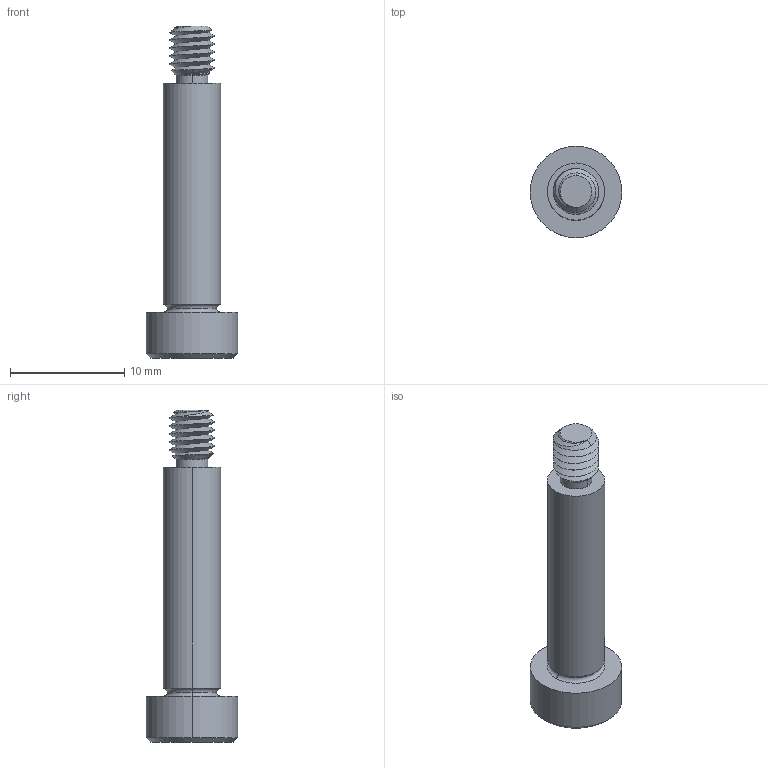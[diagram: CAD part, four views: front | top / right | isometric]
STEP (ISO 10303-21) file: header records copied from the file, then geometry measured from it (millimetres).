
FILE_DESCRIPTION (( 'STEP AP203' ), '1' );
FILE_NAME ('P0130.050-020-B2.step', '2021-11-09T21:15:55', ( '' ), ( '' ), 'SwSTEP 2.0', 'SolidWorks 2019', '' );
FILE_SCHEMA (( 'CONFIG_CONTROL_DESIGN' ));
Length unit declared in the file: millimetre
Products named in the file (1): P0130.050-020-B2
Bounding box: 8 x 8 x 29 mm (x, y, z)
Volume: 616.9 mm3; surface area: 629.6 mm2
Topology: 1 solids, 1 shells, 53 faces, 121 edges, 71 vertices
Faces by surface type: cylinder 16, plane 16, cone 15, torus 4, bspline 2
Entity records: 2151 total; most frequent: CARTESIAN_POINT 968, ORIENTED_EDGE 238, DIRECTION 226, EDGE_CURVE 119, AXIS2_PLACEMENT_3D 92, VERTEX_POINT 71, EDGE_LOOP 56, ADVANCED_FACE 53
